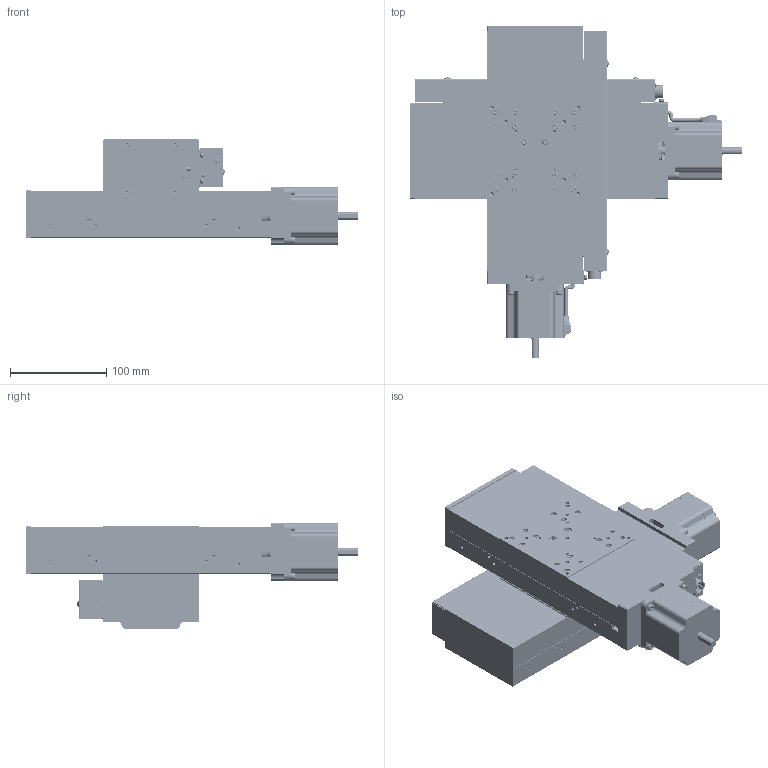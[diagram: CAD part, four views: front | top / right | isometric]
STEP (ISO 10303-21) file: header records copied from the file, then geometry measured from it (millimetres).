
FILE_DESCRIPTION (( 'STEP AP203' ), '1' );
FILE_NAME ('YA10A-L201.STEP', '2019-02-26T08:49:53', ( '' ), ( '' ), 'SwSTEP 2.0', 'SolidWorks 2018', '' );
FILE_SCHEMA (( 'CONFIG_CONTROL_DESIGN' ));
Length unit declared in the file: millimetre
Products named in the file (10): base; bellows-Part-1; second bellows; bellows-Part-2; table; YA10A-L201; second bellows-Part-2; second bellows-Part-1; second table; bellows
Assembly tree (9 placements, depth 3):
  YA10A-L201
    bellows
      bellows-Part-1
      bellows-Part-2
    second bellows
      second bellows-Part-1
      second bellows-Part-2
    table
    second table
    base
Bounding box: 345.5 x 345.5 x 110 mm (x, y, z)
Volume: 2397746 mm3; surface area: 540607 mm2
Topology: 7 solids, 13 shells, 5186 faces, 12534 edges, 7518 vertices
Faces by surface type: plane 3048, cylinder 1234, cone 788, bspline 40, sphere 40, torus 36
Entity records: 150538 total; most frequent: CARTESIAN_POINT 27280, DIRECTION 26580, ORIENTED_EDGE 24492, EDGE_CURVE 12246, AXIS2_PLACEMENT_3D 9374, LINE 7832, VECTOR 7832, VERTEX_POINT 7518
